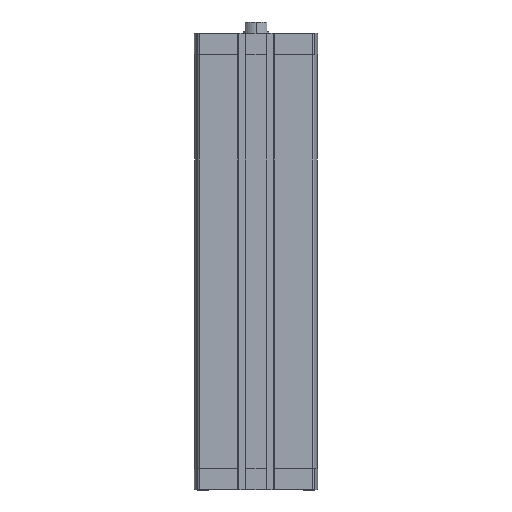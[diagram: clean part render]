
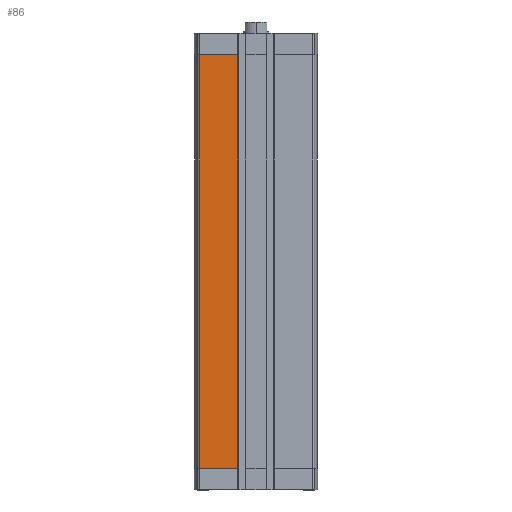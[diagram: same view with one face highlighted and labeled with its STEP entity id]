
A CAD part, left-side view. The second image highlights one B-rep face of the part: STEP entity #86.
In plain terms, the highlighted planar face has unit normal (-1, 0, 0).
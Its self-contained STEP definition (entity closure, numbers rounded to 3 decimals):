
#86 = ADVANCED_FACE ( 'NONE', ( #6778 ), #3648, .T. ) ;
#1332 = DIRECTION ( 'NONE',  ( 0., 0., 1. ) ) ;
#1400 = EDGE_LOOP ( 'NONE', ( #14684, #3779, #5417, #2192 ) ) ;
#2192 = ORIENTED_EDGE ( 'NONE', *, *, #5962, .T. ) ;
#3648 = PLANE ( 'NONE',  #8230 ) ;
#3779 = ORIENTED_EDGE ( 'NONE', *, *, #5020, .T. ) ;
#4467 = CARTESIAN_POINT ( 'NONE',  ( -47.5, 43.743, -337.5 ) ) ;
#4610 = DIRECTION ( 'NONE',  ( 0., 0., 1. ) ) ;
#4683 = VERTEX_POINT ( 'NONE', #4918 ) ;
#4918 = CARTESIAN_POINT ( 'NONE',  ( -47.5, 14.3, -337.5 ) ) ;
#5020 = EDGE_CURVE ( 'NONE', #4683, #12787, #7775, .T. ) ;
#5134 = CARTESIAN_POINT ( 'NONE',  ( -47.5, 43.743, -337.5 ) ) ;
#5417 = ORIENTED_EDGE ( 'NONE', *, *, #11985, .T. ) ;
#5962 = EDGE_CURVE ( 'NONE', #10331, #10604, #13958, .T. ) ;
#6201 = CARTESIAN_POINT ( 'NONE',  ( -47.5, 43.743, -337.5 ) ) ;
#6258 = DIRECTION ( 'NONE',  ( -1., 0., 0. ) ) ;
#6463 = CARTESIAN_POINT ( 'NONE',  ( -47.5, 0., -16.5 ) ) ;
#6778 = FACE_OUTER_BOUND ( 'NONE', #1400, .T. ) ;
#7284 = EDGE_CURVE ( 'NONE', #10604, #4683, #8705, .T. ) ;
#7326 = DIRECTION ( 'NONE',  ( 0., -1., 0. ) ) ;
#7604 = VECTOR ( 'NONE', #1332, 1000. ) ;
#7658 = DIRECTION ( 'NONE',  ( 0., 1., 0. ) ) ;
#7775 = LINE ( 'NONE', #14349, #7604 ) ;
#8218 = CARTESIAN_POINT ( 'NONE',  ( -47.5, 14.3, -16.5 ) ) ;
#8230 = AXIS2_PLACEMENT_3D ( 'NONE', #6201, #6258, #4610 ) ;
#8705 = LINE ( 'NONE', #9708, #11834 ) ;
#9708 = CARTESIAN_POINT ( 'NONE',  ( -47.5, 43.743, -337.5 ) ) ;
#10331 = VERTEX_POINT ( 'NONE', #13836 ) ;
#10604 = VERTEX_POINT ( 'NONE', #5134 ) ;
#11834 = VECTOR ( 'NONE', #7326, 1000. ) ;
#11985 = EDGE_CURVE ( 'NONE', #12787, #10331, #13362, .T. ) ;
#12777 = DIRECTION ( 'NONE',  ( 0., 0., -1. ) ) ;
#12787 = VERTEX_POINT ( 'NONE', #8218 ) ;
#13362 = LINE ( 'NONE', #6463, #13399 ) ;
#13399 = VECTOR ( 'NONE', #7658, 1000. ) ;
#13836 = CARTESIAN_POINT ( 'NONE',  ( -47.5, 43.743, -16.5 ) ) ;
#13958 = LINE ( 'NONE', #4467, #13986 ) ;
#13986 = VECTOR ( 'NONE', #12777, 1000. ) ;
#14349 = CARTESIAN_POINT ( 'NONE',  ( -47.5, 14.3, -337.5 ) ) ;
#14684 = ORIENTED_EDGE ( 'NONE', *, *, #7284, .T. ) ;
